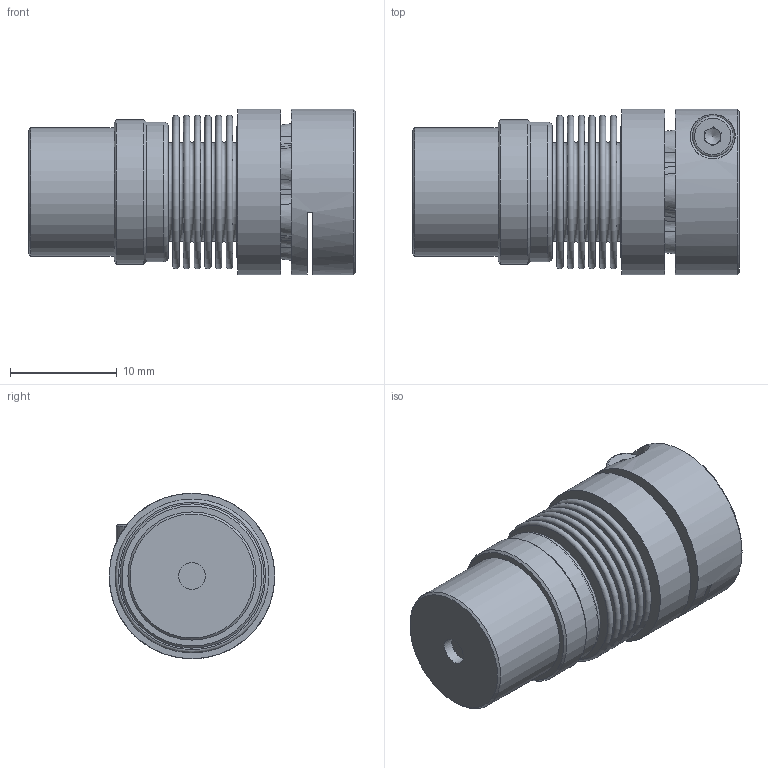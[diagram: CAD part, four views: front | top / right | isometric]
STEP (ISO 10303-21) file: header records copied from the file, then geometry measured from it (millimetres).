
FILE_DESCRIPTION( ( 'KBE1/14 - N7H8 - N14H7 - 98 Sh' ), '1' );
FILE_NAME( 'K:/Konstruktion/Fertigungszeichnungen/Metallbalgkupplung/KB3P/5-10/KB3P-5-24.stp', '14.12.2015', ( 'KBK-Antriebstechnik' ), ( 'KBK-Antriebstechnik' ), 'PSStep 16.0.42', 'Solid Edge St6', ' ' );
FILE_SCHEMA( ( 'AUTOMOTIVE_DESIGN { 1 0 10303 214 1 1 1 1 }' ) );
Length unit declared in the file: millimetre
Products named in the file (7): Assem1; BK5_Standard_0; Socket Head Cap Screw_DIN_DIN 912 M2 x 8 --- 8N_5; SN10; Stecknabe KB2P-10; Balgaufnahme KB2P-10_für Step; ISO EN DIN 4762 M3x12
Assembly tree (6 placements, depth 2):
  Assem1
    BK5_Standard_0
    Socket Head Cap Screw_DIN_DIN 912 M2 x 8 --- 8N_5
    SN10
    Stecknabe KB2P-10
    Balgaufnahme KB2P-10_für Step
    ISO EN DIN 4762 M3x12
Bounding box: 30.6 x 15.5 x 15.5 mm (x, y, z)
Volume: 3641.6 mm3; surface area: 6037 mm2
Topology: 6 solids, 6 shells, 189 faces, 395 edges, 254 vertices
Faces by surface type: plane 73, cone 59, torus 35, cylinder 22
Full cylindrical faces by diameter (mm): 1.567 x1, 2 x1, 2.2 x1, 2.5 x1, 2.98 x1, 3 x3, 3.8 x1, 5 x1, 12 x1, 12.9 x3, 13.1 x2, 13.5 x1, 15.5 x2
Entity records: 6531 total; most frequent: CARTESIAN_POINT 946, DIRECTION 907, ORIENTED_EDGE 646, AXIS2_PLACEMENT_3D 410, EDGE_CURVE 323, EDGE_LOOP 299, VERTEX_POINT 257, FACE_OUTER_BOUND 243
